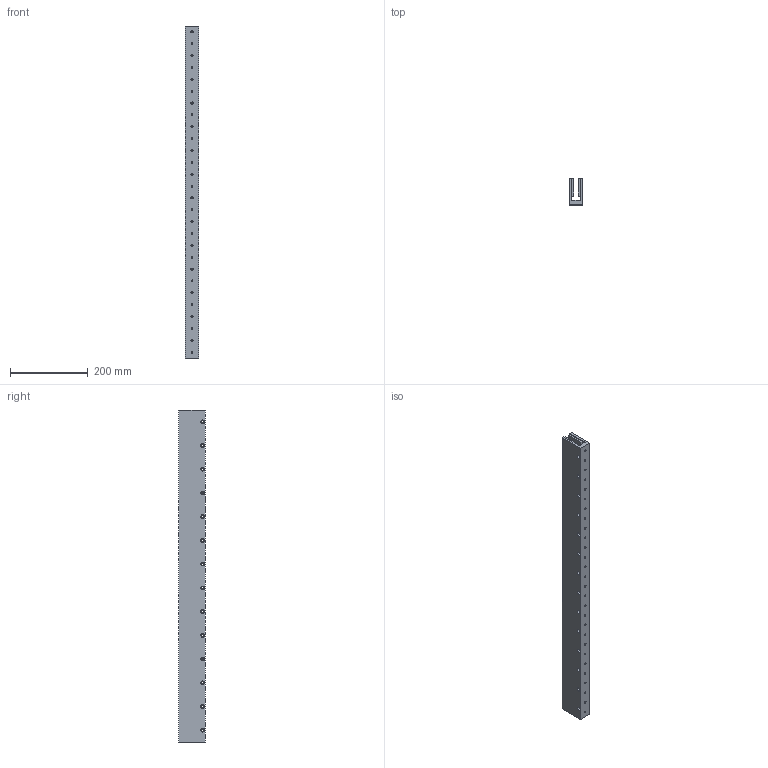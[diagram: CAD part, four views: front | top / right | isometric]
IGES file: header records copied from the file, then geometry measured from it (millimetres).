
Global section: file name: No Iges File Name specified; native system: Autodesk Inventor 2012; preprocessor: AutoDesk Inventor Iges Exporter R2012; author: je17857; date: 20120511.155319; units: inch
Bounding box: 34.29 x 67.31 x 853.19 mm (x, y, z)
Volume: 1257727 mm3; surface area: 329025.3 mm2
Topology: 1 solids, 1 shells, 416 faces, 962 edges, 646 vertices
Faces by surface type: plane 332, revolution 84
